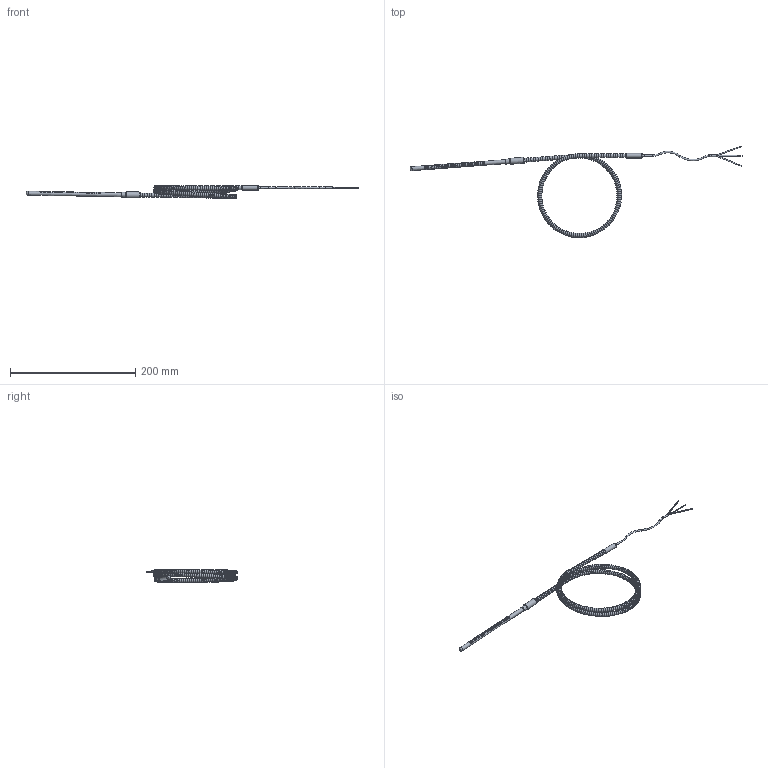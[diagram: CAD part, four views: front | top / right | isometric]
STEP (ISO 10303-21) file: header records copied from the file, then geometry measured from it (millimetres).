
FILE_DESCRIPTION(/* description */ (''),/* implementation_level */ '2;1');
FILE_NAME(/* name */ 'P:\3D Drawings\Thermocouples and RTDs\Stem Assemblies\SS-Armor-RTD\SS-Armor-RTD-STP.stp',/* time_stamp */ '2016-01-14T11:28:23-08:00',/* author */ ('charles'),/* organization */ (''),/* preprocessor_version */ 'ST-DEVELOPER v15.2',/* originating_system */ 'Autodesk Inventor 2014',/* authorisation */ '');
FILE_SCHEMA (('AUTOMOTIVE_DESIGN { 1 0 10303 214 3 1 1 }'));
Products named in the file (1): SS-Armor-RTD
Bounding box: 529.76 x 145.97 x 20.83 mm (x, y, z)
Volume: 36147.6 mm3; surface area: 25604.4 mm2
Topology: 1 solids, 1 shells, 845 faces, 1772 edges, 1177 vertices
Faces by surface type: plane 406, torus 252, bspline 111, cylinder 74, cone 1, sphere 1
Full cylindrical faces by diameter (mm): 0.762 x1, 1.27 x1, 2.54 x1, 2.667 x1, 5.715 x21, 6.35 x22, 7.366 x1, 7.899 x1, 9.525 x1
Entity records: 49528 total; most frequent: CARTESIAN_POINT 33084, DIRECTION 3048, ORIENTED_EDGE 2944, EDGE_CURVE 1472, AXIS2_PLACEMENT_3D 1377, EDGE_LOOP 1373, VERTEX_POINT 1143, ADVANCED_FACE 840
